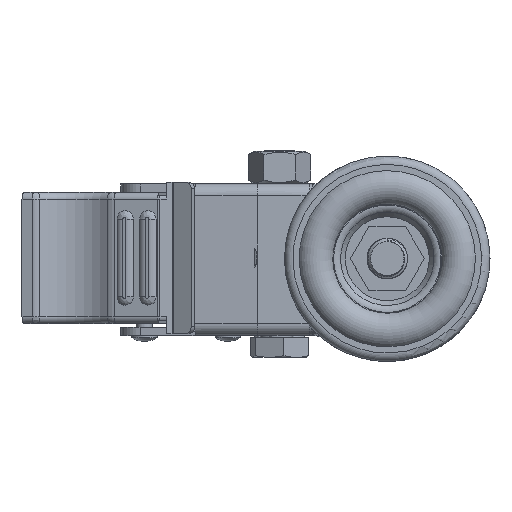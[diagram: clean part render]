
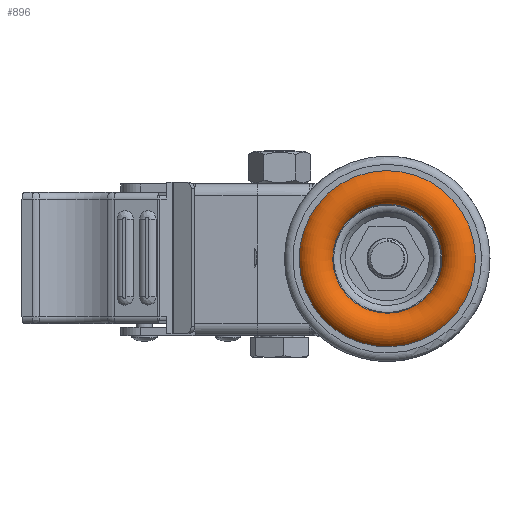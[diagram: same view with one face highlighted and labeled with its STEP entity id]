
A CAD part, top view. The second image highlights one B-rep face of the part: STEP entity #896.
In plain terms, the highlighted toroidal (fillet/blend) face has major radius 21.5 mm and minor radius 5.6 mm.
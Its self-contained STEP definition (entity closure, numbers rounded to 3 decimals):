
#489=TOROIDAL_SURFACE('',#19202,21.5,5.6);
#584=FACE_BOUND('',#3452,.T.);
#585=FACE_BOUND('',#3453,.T.);
#896=ADVANCED_FACE('',(#584,#585),#489,.T.);
#3452=EDGE_LOOP('',(#6363));
#3453=EDGE_LOOP('',(#6364));
#4728=CIRCLE('',#19199,26.164);
#4729=CIRCLE('',#19201,16.19);
#6363=ORIENTED_EDGE('',*,*,#13773,.T.);
#6364=ORIENTED_EDGE('',*,*,#13772,.F.);
#11877=VERTEX_POINT('',#28996);
#11878=VERTEX_POINT('',#28999);
#13772=EDGE_CURVE('',#11877,#11877,#4728,.T.);
#13773=EDGE_CURVE('',#11878,#11878,#4729,.T.);
#19199=AXIS2_PLACEMENT_3D('',#28995,#21071,#21072);
#19201=AXIS2_PLACEMENT_3D('',#28998,#21075,#21076);
#19202=AXIS2_PLACEMENT_3D('',#29000,#21077,#21078);
#21071=DIRECTION('',(0.,0.,-1.));
#21072=DIRECTION('',(0.929,0.37,0.));
#21075=DIRECTION('',(0.,0.,-1.));
#21076=DIRECTION('',(0.929,0.37,0.));
#21077=DIRECTION('',(0.,0.,-1.));
#21078=DIRECTION('',(-0.929,-0.37,0.));
#28995=CARTESIAN_POINT('',(0.,0.,-33.502));
#28996=CARTESIAN_POINT('',(24.303,9.692,-33.502));
#28998=CARTESIAN_POINT('',(0.,0.,-34.822));
#28999=CARTESIAN_POINT('',(15.039,5.997,-34.822));
#29000=CARTESIAN_POINT('',(0.,0.,-36.602));
